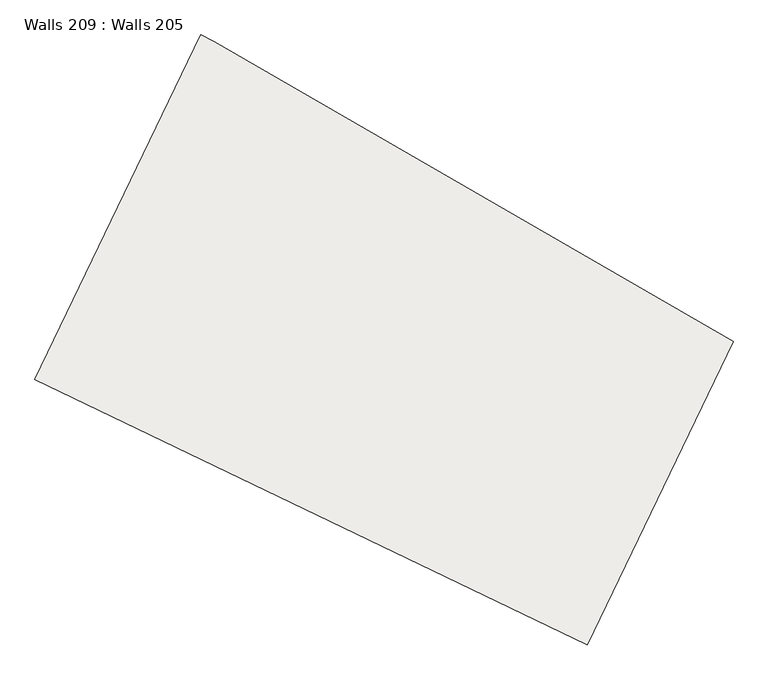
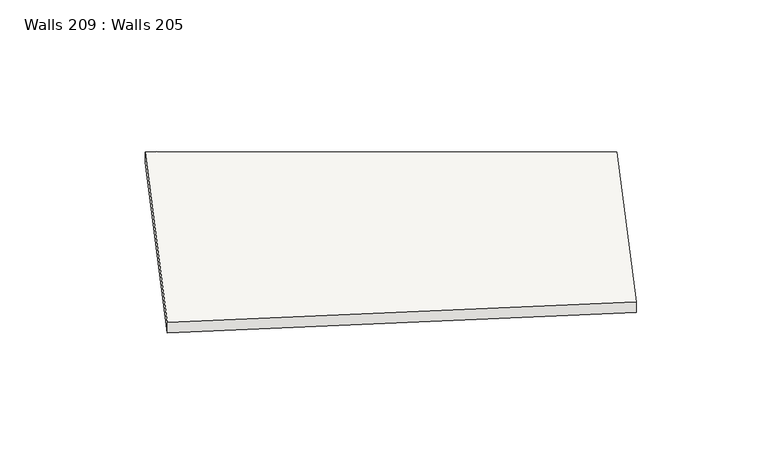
"""IFC4 building model written with IfcOpenShell, lengths in millimetres: slab geometry, Walls 209 : Walls 205."""

import ifcopenshell
import ifcopenshell.guid

model = None  # the IFC model being written
_history = None  # IfcOwnerHistory: only IFC2X3 demands one
_inside = {}  # id of a spatial element -> (the spatial element, [elements in it])
_under = {}  # id of a project, library or spatial element -> (it, [spatial elements below it])
_declared = {}  # id of a project -> (the project, [libraries it declares])
_typed = {}  # id of a type object -> (the type object, [elements of that type])
_made_of = {}  # id of a material, layer set ... -> (it, [elements and type objects made of it])


def new_model(schema):
    """Start an empty IFC model of exactly this schema.

    Asked for "IFC4X3", IfcOpenShell would pick the latest addendum, in which some entities
    have other attributes; the version numbers below select the first issue.
    IFC2X3 requires an IfcOwnerHistory on every rooted entity: one is made here for all.
    """
    global model, _history
    if schema == "IFC4X3":
        model = ifcopenshell.file(schema_version=(4, 3, 0, 0))
    else:
        model = ifcopenshell.file(schema=schema)
    _inside.clear()
    _under.clear()
    _declared.clear()
    _typed.clear()
    _made_of.clear()
    _history = None
    if model.schema == "IFC2X3":
        org = make("IfcOrganization", Name="unknown")
        user = make(
            "IfcPersonAndOrganization",
            ThePerson=make("IfcPerson", FamilyName="unknown"),
            TheOrganization=org,
        )
        app = make(
            "IfcApplication",
            ApplicationDeveloper=org,
            Version="unknown",
            ApplicationFullName="unknown",
            ApplicationIdentifier="unknown",
        )
        _history = make(
            "IfcOwnerHistory",
            OwningUser=user,
            OwningApplication=app,
            ChangeAction="ADDED",
            CreationDate=0,
        )
    return model


def make(cls, **values):
    """One entity of the class cls with the attributes given. An attribute that is None is left unset."""
    return model.create_entity(
        cls, **{name: value for name, value in values.items() if value is not None}
    )


def rooted(cls, **values):
    """An entity with a GlobalId (a new one), such as an element, a storey or a relation."""
    return make(cls, GlobalId=ifcopenshell.guid.new(), OwnerHistory=_history, **values)


def si_unit(unit_type, name, prefix=None):
    """IfcSIUnit, for example si_unit("LENGTHUNIT", "METRE", prefix="MILLI")."""
    return make("IfcSIUnit", UnitType=unit_type, Prefix=prefix, Name=name)


def assignment(units):
    """IfcUnitAssignment: the units of a project."""
    return None if units is None else make("IfcUnitAssignment", Units=units)


def point(xyz):
    """IfcCartesianPoint."""
    return None if xyz is None else make("IfcCartesianPoint", Coordinates=xyz)


def direction(xyz):
    """IfcDirection."""
    return None if xyz is None else make("IfcDirection", DirectionRatios=xyz)


def frame(location, z_axis=None, x_axis=None):
    """IfcAxis2Placement3D, a coordinate frame: its origin and axes. An axis left out is left unset."""
    return make(
        "IfcAxis2Placement3D",
        Location=point(location),
        Axis=direction(z_axis),
        RefDirection=direction(x_axis),
    )


def origin():
    """The frame at (0, 0, 0) with its axes left unset."""
    return frame((0.0, 0.0, 0.0))


def place(relative_to, where):
    """IfcLocalPlacement: puts the frame where relative to a parent placement (None: the world)."""
    return make(
        "IfcLocalPlacement", PlacementRelTo=relative_to, RelativePlacement=where
    )


def context(
    kind, dimensions, precision=None, world=None, true_north=None, identifier=None
):
    """IfcGeometricRepresentationContext, for example the 3D "Model" context."""
    return make(
        "IfcGeometricRepresentationContext",
        ContextIdentifier=identifier,
        ContextType=kind,
        CoordinateSpaceDimension=dimensions,
        Precision=precision,
        WorldCoordinateSystem=world,
        TrueNorth=true_north,
    )


def project(units=None, contexts=None):
    """IfcProject with its units and contexts."""
    return rooted(
        "IfcProject",
        Name="project",
        RepresentationContexts=contexts,
        UnitsInContext=assignment(units),
    )


def spatial(cls, under=None, at=None, **own):
    """A site, building, storey or space (cls), placed at a placement, below another one or the project."""
    s = rooted(cls, ObjectPlacement=at, **own)
    if under is not None:
        _under.setdefault(under.id(), (under, []))[1].append(s)
    return s


def faces_of(points, faces, orient=None, outer=None):
    """IfcFace entities. A face is a list of loops; a loop is a list of indices into points, from 0.

    orient and outer hold one flag for each loop. By default every Orientation is true, the
    first loop of a face is its IfcFaceOuterBound and the others are IfcFaceBound.
    """
    made = []
    for i, loops in enumerate(faces):
        bounds = []
        for j, loop in enumerate(loops):
            is_outer = j == 0 if outer is None else outer[i][j]
            bounds.append(
                make(
                    "IfcFaceOuterBound" if is_outer else "IfcFaceBound",
                    Bound=make("IfcPolyLoop", Polygon=[points[k] for k in loop]),
                    Orientation=True if orient is None else orient[i][j],
                )
            )
        made.append(make("IfcFace", Bounds=bounds))
    return made


def faceted_brep(points, faces, orient=None, outer=None, voids=None):
    """IfcFacetedBrep: a solid bounded by flat faces; with voids (closed shells), ...WithVoids."""
    shared = [point(p) for p in points]
    hull = make("IfcClosedShell", CfsFaces=faces_of(shared, faces, orient, outer))
    if voids is None:
        return make("IfcFacetedBrep", Outer=hull)
    return make(
        "IfcFacetedBrepWithVoids",
        Outer=hull,
        Voids=[
            make(cls, CfsFaces=faces_of(shared, fs, o, b)) for cls, fs, o, b in voids
        ],
    )


def shape(context_of_items, identifier, shape_type, items):
    """IfcShapeRepresentation: the items that make up one representation, for example the "Body"."""
    return make(
        "IfcShapeRepresentation",
        ContextOfItems=context_of_items,
        RepresentationIdentifier=identifier,
        RepresentationType=shape_type,
        Items=items,
    )


def source(mapping_origin, context_of_items, identifier, shape_type, items):
    """IfcRepresentationMap: a shape defined once, which mapped items show again and again."""
    return make(
        "IfcRepresentationMap",
        MappingOrigin=mapping_origin,
        MappedRepresentation=shape(context_of_items, identifier, shape_type, items),
    )


def transform(
    local_origin,
    x_axis=None,
    y_axis=None,
    z_axis=None,
    scale=None,
    scale2=None,
    scale3=None,
    uniform=True,
):
    """IfcCartesianTransformationOperator3D, or its non-uniform kind. x_axis, y_axis, z_axis: its Axis1, 2, 3."""
    if uniform:
        return make(
            "IfcCartesianTransformationOperator3D",
            Axis1=direction(x_axis),
            Axis2=direction(y_axis),
            LocalOrigin=point(local_origin),
            Scale=scale,
            Axis3=direction(z_axis),
        )
    return make(
        "IfcCartesianTransformationOperator3DnonUniform",
        Axis1=direction(x_axis),
        Axis2=direction(y_axis),
        LocalOrigin=point(local_origin),
        Scale=scale,
        Axis3=direction(z_axis),
        Scale2=scale2,
        Scale3=scale3,
    )


def mapped(mapping_source, mapping_target):
    """IfcMappedItem: shows the shape of a source again, moved by a transform."""
    return make(
        "IfcMappedItem", MappingSource=mapping_source, MappingTarget=mapping_target
    )


def made_of(thing, what):
    """Note that an element or type object is made of a material, layer set ...; save() writes the relation."""
    if what is not None:
        _made_of.setdefault(what.id(), (what, []))[1].append(thing)
    return thing


def element(
    cls,
    number,
    at=None,
    inside=None,
    cuts=None,
    type_object=None,
    material=None,
    context=None,
    identifier="Body",
    shape_type=None,
    held_by="IfcProductDefinitionShape",
    body=None,
    shapes=None,
    **own,
):
    """One element of the class cls, such as IfcWall. Its Tag is "e" and its number.

    at: its placement. inside: the storey or other place that contains it. cuts: it is an
    opening in that element (IfcRelVoidsElement). A single representation is given by context,
    identifier, shape_type and body (its items); several are given by shapes. held_by: the class
    of the entity that holds the representations. save() writes the other relations.
    """
    e = rooted(cls, Tag="e%d" % number, ObjectPlacement=at, **own)
    if body is not None:
        shapes = [shape(context, identifier, shape_type, body)]
    if shapes is not None:
        e.Representation = make(held_by, Representations=shapes)
    if inside is not None:
        _inside.setdefault(inside.id(), (inside, []))[1].append(e)
    if cuts is not None:
        rooted(
            "IfcRelVoidsElement", RelatingBuildingElement=cuts, RelatedOpeningElement=e
        )
    if type_object is not None:
        _typed.setdefault(type_object.id(), (type_object, []))[1].append(e)
    return made_of(e, material)


def aggregate(whole, parts):
    """IfcRelAggregates: a whole, such as a stair, and the parts it consists of."""
    return rooted("IfcRelAggregates", RelatingObject=whole, RelatedObjects=parts)


def save(model, path):
    """Write the relations noted so far, then the file.

    IfcRelAggregates (storeys below a building ...), IfcRelContainedInSpatialStructure (elements
    in a storey), IfcRelDefinesByType, IfcRelAssociatesMaterial and IfcRelDeclares: one each for
    every whole, place, type object, material and project.
    """
    for whole, parts in _under.values():
        aggregate(whole, parts)
    for where, things in _inside.values():
        rooted(
            "IfcRelContainedInSpatialStructure",
            RelatedElements=things,
            RelatingStructure=where,
        )
    for kind, things in _typed.values():
        rooted("IfcRelDefinesByType", RelatedObjects=things, RelatingType=kind)
    for what, things in _made_of.values():
        rooted("IfcRelAssociatesMaterial", RelatedObjects=things, RelatingMaterial=what)
    for by, libraries in _declared.values():
        rooted("IfcRelDeclares", RelatingContext=by, RelatedDefinitions=libraries)
    model.write(path)


def walls_209_walls_205_3eb6c5b4(model_context):
    return source(origin(), model_context, "Body", "Brep", [
        faceted_brep([(432373.744732, 387191.4340899, 646357.0), (432373.744732, 387191.4340899, 646457.0), (432457.2675607, 387151.3158196, 646457.0), (432457.2675607, 387151.3158196, 646357.0), (431373.4823329, 385108.9727942, 646430.8931992), (431373.4823329, 385108.9727942, 646330.8931992), (434708.692053, 383506.9814951, 646330.8931992), (434708.692053, 383506.9814951, 646430.8931992), (435588.2750371, 385338.1985058, 646453.850273), (435588.2750371, 385338.1985058, 646353.850273)], [[[0, 1, 2, 3]], [[4, 5, 6, 7]], [[3, 2, 8, 9]], [[4, 7, 8, 2, 1]], [[7, 6, 9, 8]], [[6, 5, 0, 3, 9]], [[1, 0, 5, 4]]]),
    ])


if __name__ == "__main__":
    model = new_model("IFC4")
    model_context = context("Model", 3, world=origin())
    ifc_project = project(units=[si_unit("LENGTHUNIT", "METRE", prefix="MILLI")], contexts=[model_context])
    site = spatial("IfcSite", under=ifc_project)
    building = spatial("IfcBuilding", under=site)
    placement = place(None, origin())
    walls_209_walls_205_shape = walls_209_walls_205_3eb6c5b4(model_context)
    element("IfcSlab", 1, ObjectType="Walls 209 : Walls 205", at=placement, inside=building, context=model_context, shape_type="MappedRepresentation", body=[
        mapped(walls_209_walls_205_shape, transform((0.0, 0.0, 0.0), x_axis=(1.0, 0.0, 0.0), y_axis=(0.0, 1.0, 0.0), z_axis=(0.0, 0.0, 1.0))),
    ])
    save(model, "model.ifc")
